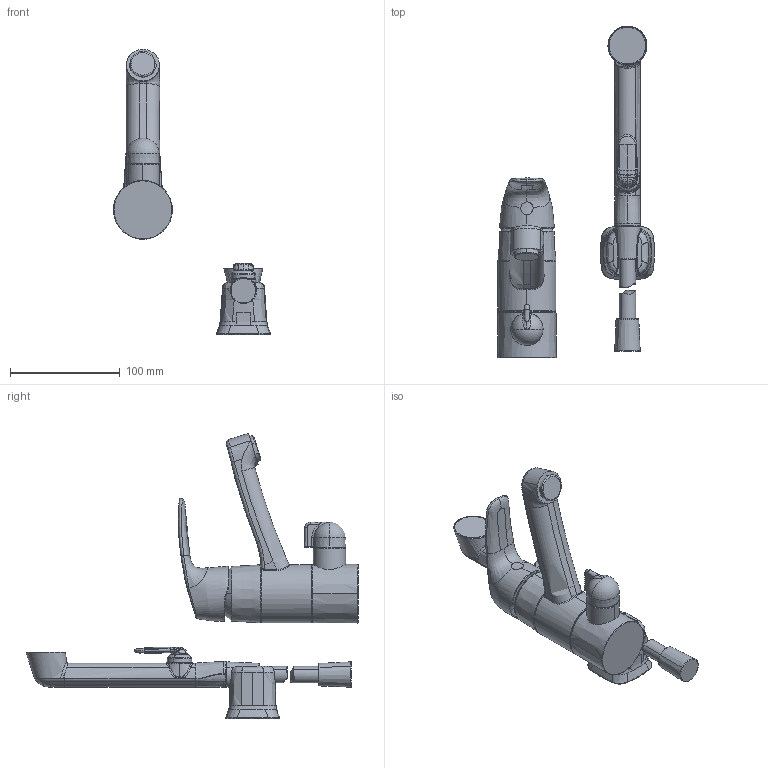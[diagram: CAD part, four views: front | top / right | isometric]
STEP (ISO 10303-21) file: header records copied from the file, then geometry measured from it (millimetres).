
FILE_DESCRIPTION (( 'STEP AP203' ), '1' );
FILE_NAME ('1014F-105(2023)+1014F-104(2023).STEP', '2023-10-11T10:11:33', ( '' ), ( '' ), 'SwSTEP 2.0', 'SolidWorks 2016', '' );
FILE_SCHEMA (( 'CONFIG_CONTROL_DESIGN' ));
Products named in the file (1): 1014F-105(2023)+1014F-104(2023)
Bounding box: 143.21 x 302.74 x 260.1 mm (x, y, z)
Volume: 626901.4 mm3; surface area: 99593.9 mm2
Topology: 12 solids, 12 shells, 408 faces, 983 edges, 596 vertices
Faces by surface type: bspline 279, cone 34, torus 33, plane 32, cylinder 30
Entity records: 80743 total; most frequent: CARTESIAN_POINT 73519, ORIENTED_EDGE 1952, EDGE_CURVE 976, DIRECTION 838, VERTEX_POINT 596, B_SPLINE_CURVE_WITH_KNOTS 526, EDGE_LOOP 412, ADVANCED_FACE 408
